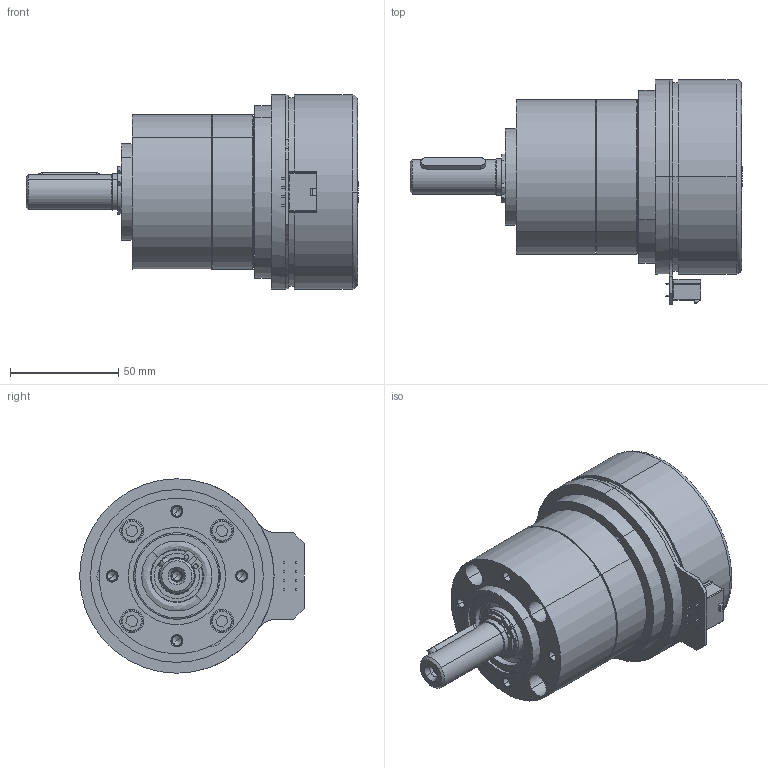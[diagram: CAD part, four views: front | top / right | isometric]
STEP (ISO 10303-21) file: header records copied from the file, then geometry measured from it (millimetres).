
FILE_DESCRIPTION (( 'STEP AP214' ), '1' );
FILE_NAME ('6240902_EC90flat 400W_PM72 - S48 1 étage.STEP', '2019-09-20T09:53:19', ( '' ), ( '' ), 'SwSTEP 2.0', 'SolidWorks 2018', '' );
FILE_SCHEMA (( 'AUTOMOTIVE_DESIGN' ));
Length unit declared in the file: millimetre
Products named in the file (16): 8004806_ZAHNKRANZ_Z46_5; 1199388_5; 5X5X30_D6885A_5; 5966040_ADAPT-EC90fl-PM72; 8004822_LAGERFLANSCH_5; 8006242_DICHTRING_5; 6240902_EC90flat 400W_PM72 - S48 1 étage; D471_17X1_5_5; D625-6203-2RS_5; 8006638_ABTRIEB_LK1_AF0_5; DIN998_PS_17X24X1_5; 8001939_LAGERBOLZEN_5; PM72_1 Ｕage; EC90fl-400W-V1; 8004800_ANLAUFSCHEIBE_Z23_1ST_1; D912_M6X40_1
Assembly tree (23 placements, depth 4):
  6240902_EC90flat 400W_PM72 - S48 1 étage
    PM72_1 Ｕage
      8004822_LAGERFLANSCH_5
      D625-6203-2RS_5  x2
      DIN998_PS_17X24X1_5  x2
      1199388_5
        8006638_ABTRIEB_LK1_AF0_5
        8001939_LAGERBOLZEN_5  x3
      D471_17X1_5_5
      5X5X30_D6885A_5
      8006242_DICHTRING_5  x2
      8004806_ZAHNKRANZ_Z46_5
      D912_M6X40_1  x4
      8004800_ANLAUFSCHEIBE_Z23_1ST_1
    5966040_ADAPT-EC90fl-PM72
    EC90fl-400W-V1
Bounding box: 153.7 x 104 x 90 mm (x, y, z)
Volume: 364457.7 mm3; surface area: 135781.4 mm2
Topology: 19 solids, 36 shells, 1039 faces, 2707 edges, 1771 vertices
Faces by surface type: plane 479, cylinder 417, cone 79, bspline 64
Entity records: 31435 total; most frequent: CARTESIAN_POINT 6381, DIRECTION 5014, ORIENTED_EDGE 4734, EDGE_CURVE 2379, AXIS2_PLACEMENT_3D 1776, VERTEX_POINT 1569, LINE 1462, VECTOR 1462
